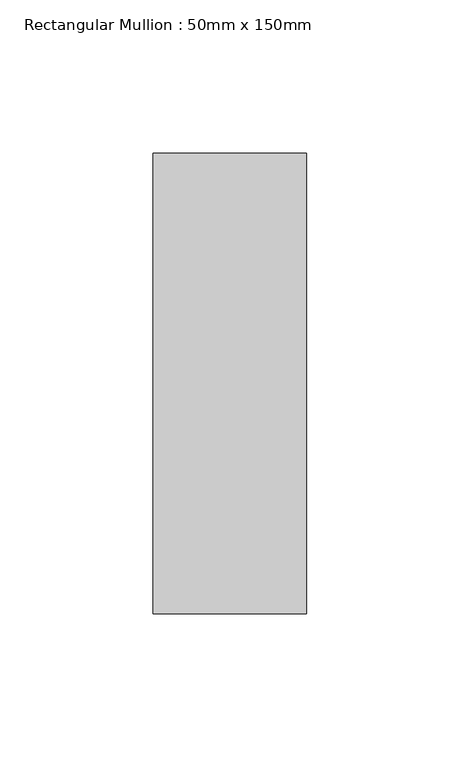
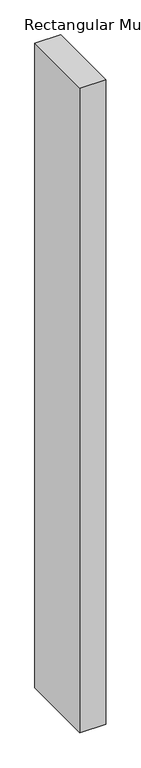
"""IFC4 building model written with IfcOpenShell, lengths in millimetres: member geometry, Rectangular Mullion : 50mm x 150mm."""

from ifc_helpers import new_model, si_unit, frame, origin, place, context, project, spatial, polyline, outline, extrude, source, transform, mapped, element, save


def rectangular_mullion_50mm_x_150mm_eff96389(model_context):
    return source(origin(), model_context, "Body", "SweptSolid", [
        extrude(outline(polyline([(25.0, 75.0), (25.0, -75.0), (-25.0, -75.0), (-25.0, 75.0), (25.0, 75.0)])), frame((0.0, 0.0, -1315.0), z_axis=(0.0, 0.0, 1.0), x_axis=(1.0, 0.0, 0.0)), (0.0, 0.0, 1.0), 1315.0),
    ])


if __name__ == "__main__":
    model = new_model("IFC4")
    model_context = context("Model", 3, world=origin())
    ifc_project = project(units=[si_unit("LENGTHUNIT", "METRE", prefix="MILLI")], contexts=[model_context])
    site = spatial("IfcSite", under=ifc_project)
    building = spatial("IfcBuilding", under=site)
    placement = place(None, origin())
    rectangular_mullion_50mm_x_150mm_shape = rectangular_mullion_50mm_x_150mm_eff96389(model_context)
    element("IfcMember", 1, ObjectType="Rectangular Mullion : 50mm x 150mm", at=placement, inside=building, context=model_context, shape_type="MappedRepresentation", body=[
        mapped(rectangular_mullion_50mm_x_150mm_shape, transform((0.0, 0.0, 0.0), x_axis=(1.0, 0.0, 0.0), y_axis=(0.0, 1.0, 0.0), z_axis=(0.0, 0.0, 1.0))),
    ])
    save(model, "model.ifc")
